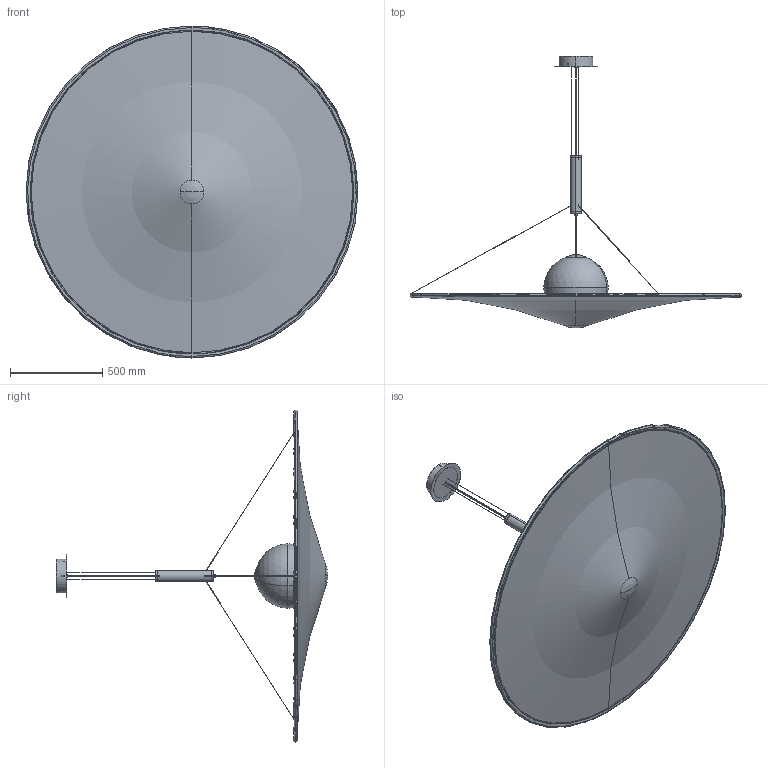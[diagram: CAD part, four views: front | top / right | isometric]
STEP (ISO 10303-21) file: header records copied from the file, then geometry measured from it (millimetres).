
FILE_DESCRIPTION (( 'STEP AP203' ), '1' );
FILE_NAME ('1800down.STEP', '2019-07-25T15:52:31', ( '' ), ( '' ), 'SwSTEP 2.0', 'SolidWorks 2019', '' );
FILE_SCHEMA (( 'CONFIG_CONTROL_DESIGN' ));
Length unit declared in the file: millimetre
Products named in the file (27): 1800down.STEP; 1.5A.AXO02.LS01.S3.STEP; 1.5C.AXO02.LS01.04.STEP; 1.5A.AXO02.LS01.S4.STEP; Bloccacavo Steab_NERO 5100-7-08-2-6.STEP; Nipplo A_NIPPLO M10x1 H.7 NERO.STEP; Viti Testa Svasata Piana Incasso Esagonale_VITE M3x0.5 L.10 TSPCE.STEP; 0.5C.AXO02.LS02.06_rev_A.STEP; 1.5A.AXO02.LS01.M6.STEP; 0.0C.AXO02.LS03.98.STEP; 0.0C.AXO02.LS03.03.STEP; 0.0C.AXO02.LS03.02_CON CARICO.STEP; 1.5A.AXO02.LS01.S1_rev_A.STEP; 1.5A.AXO02.LS01.M7.STEP; 1.5C.AXO02.LS01.20_rev_A_Default_A macchina_.STEP; 1.5C.AXO02.LS01.17_rev_A.STEP; 1.5C.AXO02.LS01.13_rev_A_Default_A macchina_.STEP; 1.5C.AXO02.LS01.14.STEP; Finale Maschio M6 art.21024.STEP; 1800down; 1.5C.AXO02.LS01.10.STEP; 0.0A.AXO02.LS03.M2.STEP; 0.0C.AXO02.LS03.01_rev_A_SENZA CARICO.STEP; 1.5C.AXO02.LS01.50_FUNE D''''ACCIAIO INOX 49 CAPI L.500.STEP; 0.0A.AXO02.LS03.M1.STEP; 1.5C.AXO02.LS01.21.STEP; 1.5C.AXO02.LS01.51.STEP
Assembly tree (32 placements, depth 5):
  1800down
    1800down.STEP
      1.5A.AXO02.LS01.S1_rev_A.STEP
        1.5C.AXO02.LS01.04.STEP
      0.0A.AXO02.LS03.M1.STEP
        0.0C.AXO02.LS03.01_rev_A_SENZA CARICO.STEP
        0.0C.AXO02.LS03.02_CON CARICO.STEP
      0.0A.AXO02.LS03.M2.STEP
        0.0C.AXO02.LS03.03.STEP
        0.5C.AXO02.LS02.06_rev_A.STEP
      1.5A.AXO02.LS01.M6.STEP
        1.5A.AXO02.LS01.S4.STEP
          1.5C.AXO02.LS01.21.STEP
        1.5C.AXO02.LS01.10.STEP
      1.5A.AXO02.LS01.M7.STEP
        1.5A.AXO02.LS01.S3.STEP
          1.5C.AXO02.LS01.17_rev_A.STEP
        Nipplo A_NIPPLO M10x1 H.7 NERO.STEP
        1.5C.AXO02.LS01.20_rev_A_Default_A macchina_.STEP
      1.5C.AXO02.LS01.50_FUNE D''''ACCIAIO INOX 49 CAPI L.500.STEP  x3
      Finale Maschio M6 art.21024.STEP  x3
      Bloccacavo Steab_NERO 5100-7-08-2-6.STEP
      1.5C.AXO02.LS01.13_rev_A_Default_A macchina_.STEP
      1.5C.AXO02.LS01.14.STEP
      0.0C.AXO02.LS03.98.STEP  x3
      1.5C.AXO02.LS01.51.STEP
      Viti Testa Svasata Piana Incasso Esagonale_VITE M3x0.5 L.10 TSPCE.STEP
Bounding box: 1800.67 x 1473.71 x 1800.94 mm (x, y, z)
Volume: 1839251.7 mm3; surface area: 4481805.7 mm2
Topology: 32 solids, 34 shells, 662 faces, 1502 edges, 924 vertices
Faces by surface type: cylinder 316, plane 145, torus 116, cone 69, sphere 16
Entity records: 23425 total; most frequent: CARTESIAN_POINT 7820, DIRECTION 2874, ORIENTED_EDGE 2416, AXIS2_PLACEMENT_3D 1221, EDGE_CURVE 1212, VERTEX_POINT 762, EDGE_LOOP 676, CIRCLE 645
